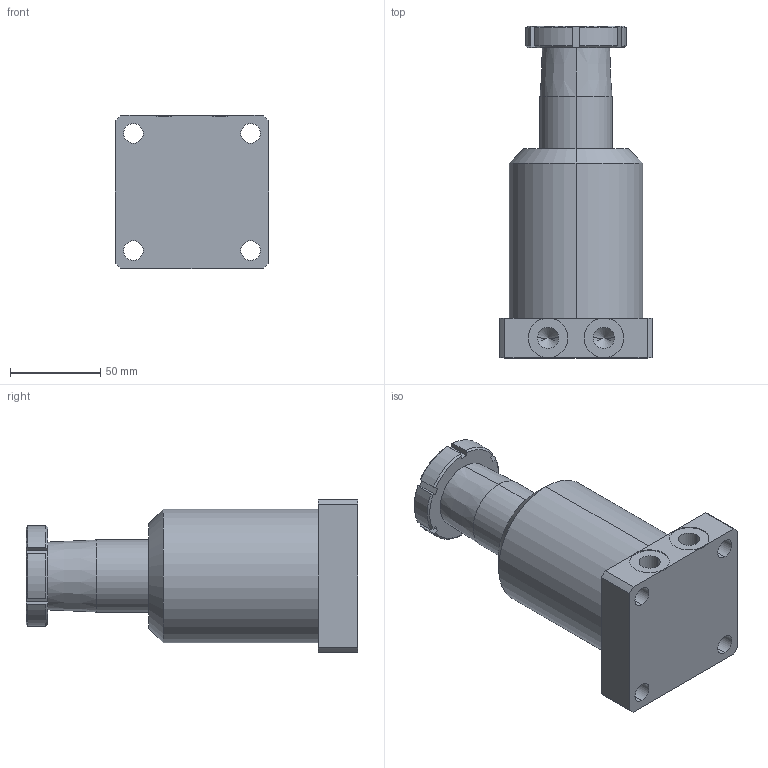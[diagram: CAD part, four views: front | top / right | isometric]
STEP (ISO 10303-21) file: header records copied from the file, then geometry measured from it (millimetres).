
FILE_DESCRIPTION (( 'STEP AP203' ), '1' );
FILE_NAME ('4120 526 529.STEP', '2016-01-28T11:37:56', ( '' ), ( '' ), 'SwSTEP 2.0', 'SolidWorks 2015', '' );
FILE_SCHEMA (( 'CONFIG_CONTROL_DESIGN' ));
Length unit declared in the file: millimetre
Products named in the file (1): 4120 526 529
Bounding box: 85 x 184 x 85 mm (x, y, z)
Volume: 636945.3 mm3; surface area: 61699.2 mm2
Topology: 2 solids, 2 shells, 99 faces, 258 edges, 164 vertices
Faces by surface type: cylinder 36, plane 33, cone 26, torus 4
Entity records: 3165 total; most frequent: CARTESIAN_POINT 614, DIRECTION 532, ORIENTED_EDGE 508, EDGE_CURVE 254, AXIS2_PLACEMENT_3D 202, VERTEX_POINT 164, LINE 128, VECTOR 128
